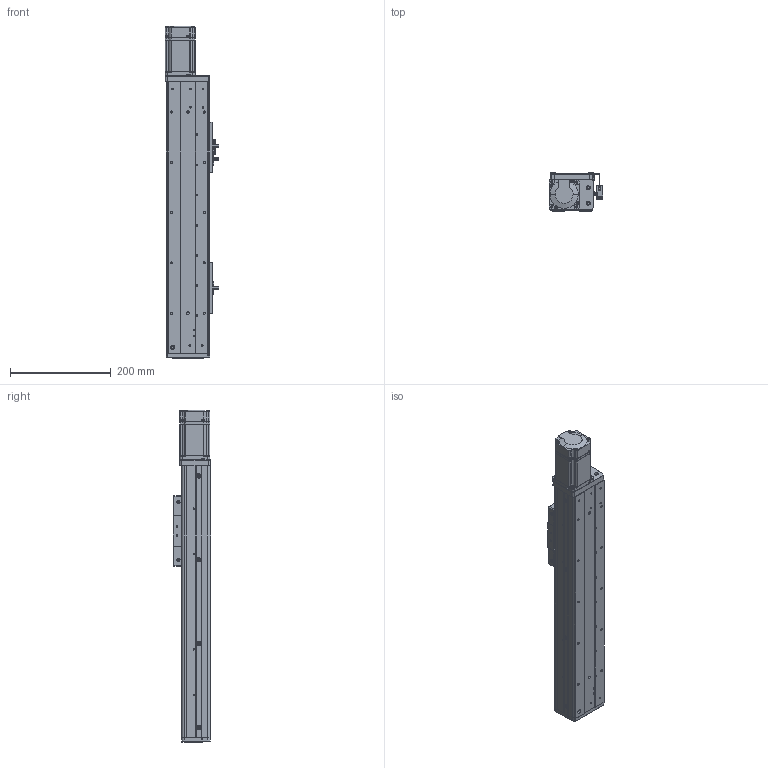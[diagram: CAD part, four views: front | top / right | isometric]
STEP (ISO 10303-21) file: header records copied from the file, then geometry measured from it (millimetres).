
FILE_DESCRIPTION (( 'STEP AP203' ), '1' );
FILE_NAME ('RY80F-L1610-300-MK.SLDASM_300.step', '2021-03-02T03:18:35', ( '盈信电脑' ), ( '东莞市道滘镇水果街19号' ), 'SwSTEP 2.0', 'SolidWorks 2012', '' );
FILE_SCHEMA (( 'CONFIG_CONTROL_DESIGN' ));
Products named in the file (16): RY80俋离覜茼え; RY80F-L1610-300-MK.SLDASM_300; 覜茼ん672; 侂狟200W萇儂; 1; 滅袉蝶18-24; 蚥薯蝶紫輸; RY80F-綴裔啣(臏璃ㄘ; RY80F-詩湍揤踡輸; RY80F-佪裝眻蟀ヶ裔啣(200W PCD70 M4); 672嫖萇羲壽假蚾釱; RY80F-丝杆铝滑块(16丝杆）; RY80F-300-祥凄詩湍-MK; RY80F-滅鳥裔啣; RY80F-300丝杆直连型材盖板; RY80F-丝杆直连型材底座
Assembly tree (21 placements, depth 3):
  RY80F-L1610-300-MK.SLDASM_300
    RY80F-丝杆直连型材底座
    RY80F-300丝杆直连型材盖板  x2
    RY80F-丝杆铝滑块(16丝杆）
    RY80F-滅鳥裔啣
    RY80F-300-祥凄詩湍-MK
    RY80F-佪裝眻蟀ヶ裔啣(200W PCD70 M4)
    RY80F-詩湍揤踡輸  x2
    RY80F-綴裔啣(臏璃ㄘ
    672嫖萇羲壽假蚾釱  x2
    蚥薯蝶紫輸
    滅袉蝶18-24  x2
    侂狟200W萇儂
      1
    RY80俋离覜茼え
    覜茼ん672  x3
Bounding box: 107.2 x 75 x 660 mm (x, y, z)
Volume: 1430246.3 mm3; surface area: 530322.5 mm2
Topology: 20 solids, 20 shells, 1653 faces, 4536 edges, 2956 vertices
Faces by surface type: plane 799, cylinder 727, cone 109, bspline 18
Entity records: 46800 total; most frequent: CARTESIAN_POINT 9649, DIRECTION 7428, ORIENTED_EDGE 7344, EDGE_CURVE 3672, AXIS2_PLACEMENT_3D 2607, VERTEX_POINT 2408, LINE 2214, VECTOR 2214
